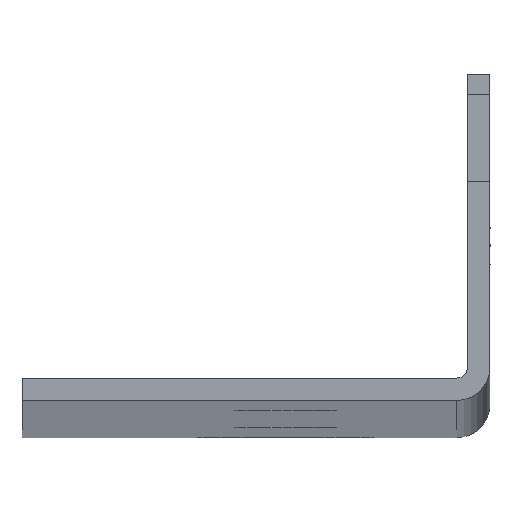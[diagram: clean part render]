
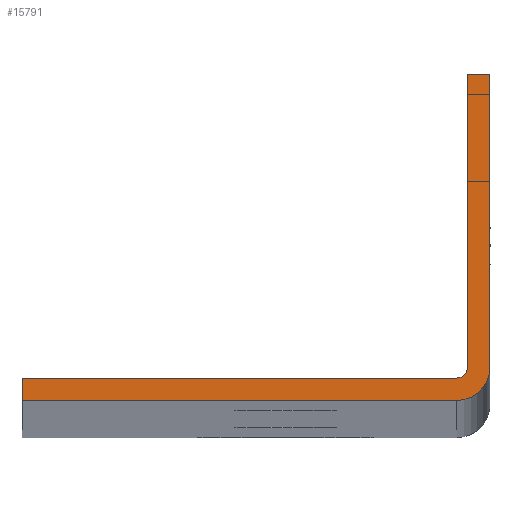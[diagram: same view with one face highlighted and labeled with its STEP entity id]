
A CAD part, top view. The second image highlights one B-rep face of the part: STEP entity #15791.
In plain terms, the highlighted planar face has unit normal (0, 0, 1).
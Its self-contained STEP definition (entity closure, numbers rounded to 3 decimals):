
#801=LINE('',#22676,#2913);
#850=LINE('',#22929,#2962);
#851=LINE('',#22933,#2963);
#852=LINE('',#22935,#2964);
#853=LINE('',#22939,#2965);
#854=LINE('',#22941,#2966);
#2913=VECTOR('',#18073,1000.);
#2962=VECTOR('',#18186,1000.);
#2963=VECTOR('',#18189,1000.);
#2964=VECTOR('',#18190,1000.);
#2965=VECTOR('',#18193,1000.);
#2966=VECTOR('',#18194,1000.);
#5165=ORIENTED_EDGE('',*,*,#9708,.F.);
#5166=ORIENTED_EDGE('',*,*,#9709,.F.);
#5167=ORIENTED_EDGE('',*,*,#9613,.F.);
#5168=ORIENTED_EDGE('',*,*,#9710,.T.);
#5169=ORIENTED_EDGE('',*,*,#9711,.T.);
#5170=ORIENTED_EDGE('',*,*,#9712,.T.);
#5171=ORIENTED_EDGE('',*,*,#9713,.T.);
#5172=ORIENTED_EDGE('',*,*,#9714,.T.);
#9613=EDGE_CURVE('',#11889,#11890,#801,.T.);
#9708=EDGE_CURVE('',#11975,#11976,#850,.T.);
#9709=EDGE_CURVE('',#11890,#11975,#12767,.T.);
#9710=EDGE_CURVE('',#11889,#11977,#851,.T.);
#9711=EDGE_CURVE('',#11977,#11978,#852,.T.);
#9712=EDGE_CURVE('',#11978,#11979,#12768,.F.);
#9713=EDGE_CURVE('',#11979,#11980,#853,.T.);
#9714=EDGE_CURVE('',#11980,#11976,#854,.T.);
#11889=VERTEX_POINT('',#22677);
#11890=VERTEX_POINT('',#22678);
#11975=VERTEX_POINT('',#22930);
#11976=VERTEX_POINT('',#22931);
#11977=VERTEX_POINT('',#22934);
#11978=VERTEX_POINT('',#22936);
#11979=VERTEX_POINT('',#22938);
#11980=VERTEX_POINT('',#22940);
#12767=CIRCLE('',#16616,3.632);
#12768=CIRCLE('',#16617,1.219);
#12986=EDGE_LOOP('',(#5165,#5166,#5167,#5168,#5169,#5170,#5171,#5172));
#14110=FACE_BOUND('',#12986,.T.);
#15055=PLANE('',#16615);
#15791=ADVANCED_FACE('',(#14110),#15055,.T.);
#16615=AXIS2_PLACEMENT_3D('',#22928,#18184,#18185);
#16616=AXIS2_PLACEMENT_3D('',#22932,#18187,#18188);
#16617=AXIS2_PLACEMENT_3D('',#22937,#18191,#18192);
#18073=DIRECTION('',(0.,-1.,0.));
#18184=DIRECTION('',(0.,0.,1.));
#18185=DIRECTION('',(1.,0.,0.));
#18186=DIRECTION('',(-1.,0.,0.));
#18187=DIRECTION('',(0.,0.,-1.));
#18188=DIRECTION('',(0.,1.,0.));
#18189=DIRECTION('',(-1.,0.,0.));
#18190=DIRECTION('',(0.,-1.,0.));
#18191=DIRECTION('',(0.,0.,1.));
#18192=DIRECTION('',(1.,0.,0.));
#18193=DIRECTION('',(-1.,0.,0.));
#18194=DIRECTION('',(0.,-1.,0.));
#22676=CARTESIAN_POINT('',(25.4,2.171,1156.081));
#22677=CARTESIAN_POINT('',(25.4,35.408,1156.081));
#22678=CARTESIAN_POINT('',(25.4,3.632,1156.081));
#22928=CARTESIAN_POINT('',(25.4,2.413,1156.081));
#22929=CARTESIAN_POINT('',(25.4,0.,1156.081));
#22930=CARTESIAN_POINT('',(21.768,0.,1156.081));
#22931=CARTESIAN_POINT('',(-25.4,0.,1156.081));
#22932=CARTESIAN_POINT('',(21.768,3.632,1156.081));
#22933=CARTESIAN_POINT('',(25.4,35.408,1156.081));
#22934=CARTESIAN_POINT('',(22.987,35.408,1156.081));
#22935=CARTESIAN_POINT('',(22.987,2.171,1156.081));
#22936=CARTESIAN_POINT('',(22.987,3.632,1156.081));
#22937=CARTESIAN_POINT('',(21.768,3.632,1156.081));
#22938=CARTESIAN_POINT('',(21.768,2.413,1156.081));
#22939=CARTESIAN_POINT('',(25.4,2.413,1156.081));
#22940=CARTESIAN_POINT('',(-25.4,2.413,1156.081));
#22941=CARTESIAN_POINT('',(-25.4,2.413,1156.081));
